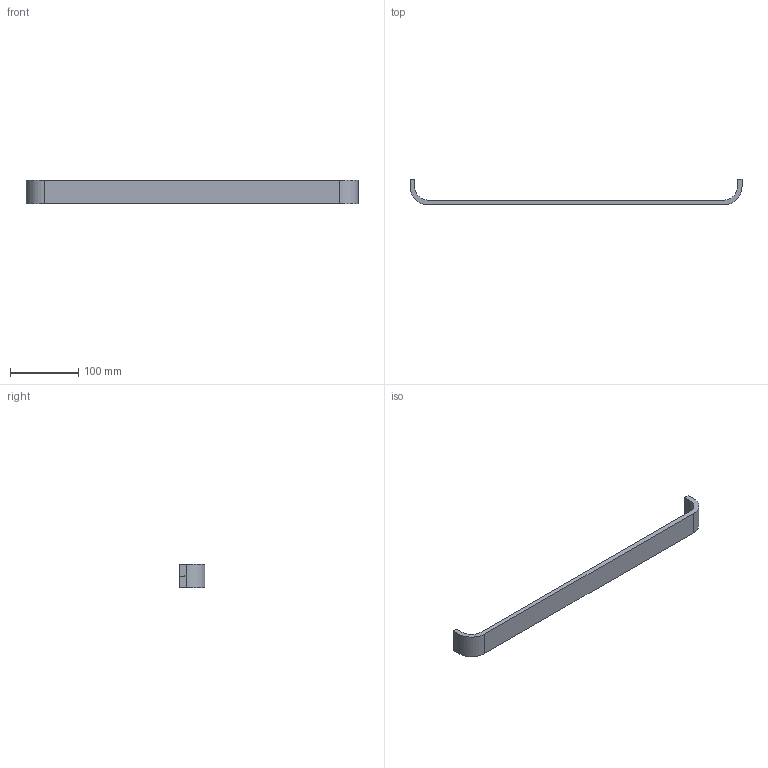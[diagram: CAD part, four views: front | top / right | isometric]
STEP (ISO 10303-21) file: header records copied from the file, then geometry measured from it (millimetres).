
FILE_DESCRIPTION( ( '' ), '1' );
FILE_NAME( 'C:/Documents and Settings/Sachin/Desktop/Sheet 10_1/stp/115082.stp', '2013-10-22T10:35:52', ( '' ), ( '' ), ' ', ' ', ' ' );
FILE_SCHEMA( ( 'CONFIG_CONTROL_DESIGN' ) );
Length unit declared in the file: millimetre
Products named in the file (1): 1
Bounding box: 487 x 38 x 35 mm (x, y, z)
Volume: 129361.7 mm3; surface area: 45112.6 mm2
Topology: 1 solids, 1 shells, 20 faces, 48 edges, 32 vertices
Faces by surface type: plane 12, cylinder 8
Entity records: 632 total; most frequent: DIRECTION 106, CARTESIAN_POINT 101, ORIENTED_EDGE 96, EDGE_CURVE 48, AXIS2_PLACEMENT_3D 37, VERTEX_POINT 32, LINE 32, VECTOR 32
